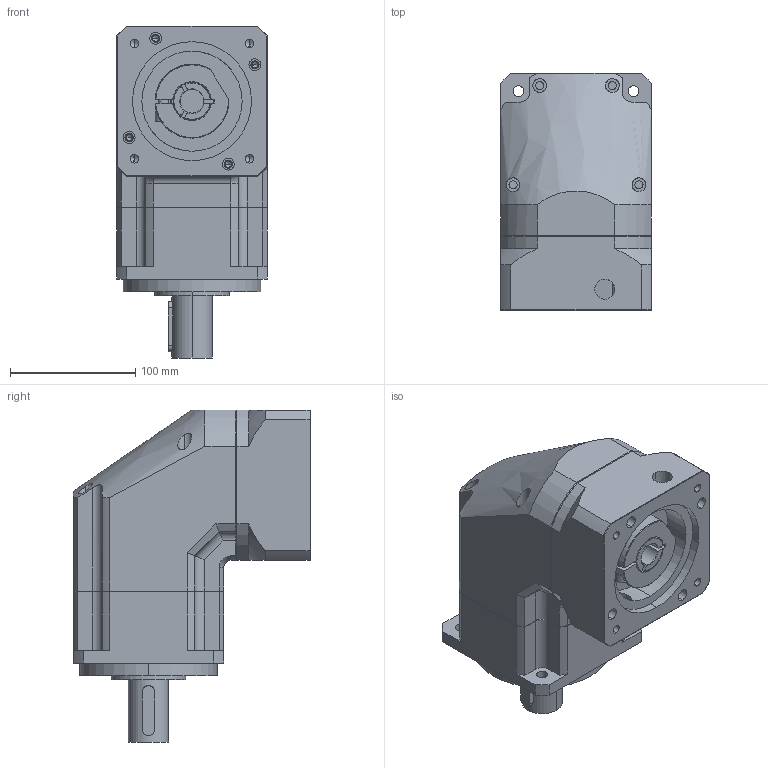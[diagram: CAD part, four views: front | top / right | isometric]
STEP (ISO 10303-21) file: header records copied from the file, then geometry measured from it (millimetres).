
FILE_DESCRIPTION (( 'STEP AP203' ), '1' );
FILE_NAME ('PDZJ120-L1-5-110.STEP', '2020-12-03T02:46:08', ( 'USER-' ), ( 'MS' ), 'SwSTEP 2.0', 'SolidWorks 2018', '' );
FILE_SCHEMA (( 'CONFIG_CONTROL_DESIGN' ));
Length unit declared in the file: millimetre
Products named in the file (9): PDR120-LJ01^PDZJ120-L1(2)_PDZJ120-L1; PDR120-HCZ^PDZJ120-L1(2)_PDZJ120-L1; PD120   _______22^PDZJ120-L1(2)_PDZJ120-L1; GB__T70__1-2000   ________________M8__20^PDZJ120-L1(2)_PDZJ120-L1; PD120   ____________^PDZJ120-L1(2)_PDZJ120-L1; PD120  ________^PDZJ120-L1(2)_PDZJ120-L1; ______   10x8x40^PDZJ120-L1(2)_PDZJ120-L1; PDZJ120-L1-5-110; PDR120-XT01^PDZJ120-L1(2)_PDZJ120-L1
Assembly tree (8 placements, depth 2):
  PDZJ120-L1-5-110
    PDR120-XT01^PDZJ120-L1(2)_PDZJ120-L1
    PDR120-LJ01^PDZJ120-L1(2)_PDZJ120-L1
    PDR120-HCZ^PDZJ120-L1(2)_PDZJ120-L1
    PD120   _______22^PDZJ120-L1(2)_PDZJ120-L1
    GB__T70__1-2000   ________________M8__20^PDZJ120-L1(2)_PDZJ120-L1
    PD120   ____________^PDZJ120-L1(2)_PDZJ120-L1
    PD120  ________^PDZJ120-L1(2)_PDZJ120-L1
    ______   10x8x40^PDZJ120-L1(2)_PDZJ120-L1
Bounding box: 120 x 189.5 x 265 mm (x, y, z)
Volume: 3117221.6 mm3; surface area: 262008.9 mm2
Topology: 8 solids, 8 shells, 399 faces, 988 edges, 617 vertices
Faces by surface type: cylinder 175, plane 140, cone 73, torus 6, sphere 4, bspline 1
Entity records: 14744 total; most frequent: CARTESIAN_POINT 4229, DIRECTION 2075, ORIENTED_EDGE 1940, EDGE_CURVE 970, AXIS2_PLACEMENT_3D 815, VERTEX_POINT 617, EDGE_LOOP 471, VECTOR 445
